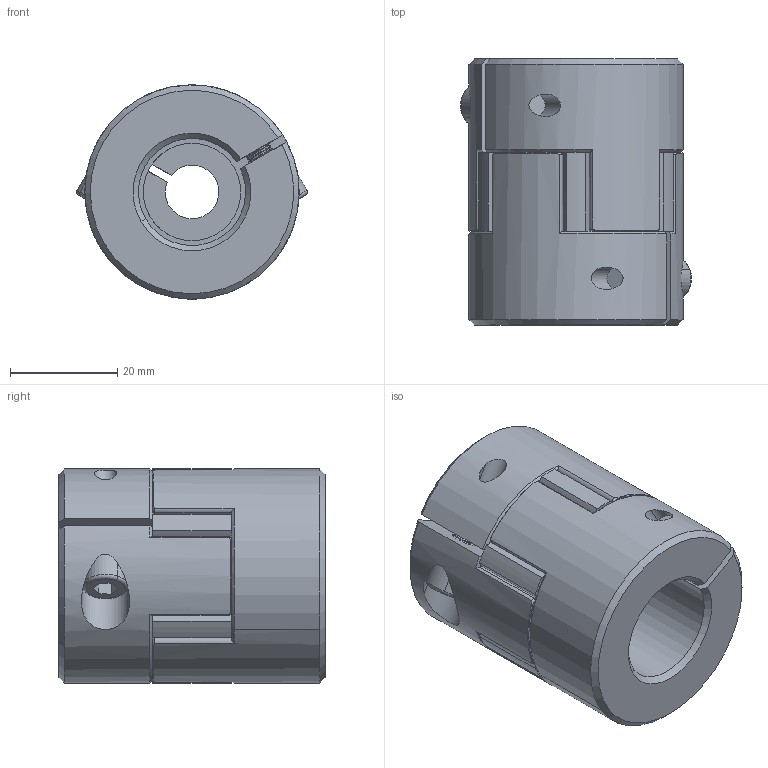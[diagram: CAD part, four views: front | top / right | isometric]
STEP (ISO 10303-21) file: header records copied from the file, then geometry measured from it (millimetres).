
FILE_DESCRIPTION (( 'STEP AP203' ), '1' );
FILE_NAME ('LF-B-D40L50-10-20.STEP', '2021-10-25T02:40:10', ( '' ), ( '' ), 'SwSTEP 2.0', 'SolidWorks 2018', '' );
FILE_SCHEMA (( 'CONFIG_CONTROL_DESIGN' ));
Length unit declared in the file: millimetre
Products named in the file (1): LF-B-D40L50-10-20
Bounding box: 43.11 x 49.7 x 40 mm (x, y, z)
Volume: 50083 mm3; surface area: 14661.8 mm2
Topology: 1 solids, 7 shells, 470 faces, 1113 edges, 660 vertices
Faces by surface type: cone 170, cylinder 169, plane 127, torus 4
Entity records: 13932 total; most frequent: CARTESIAN_POINT 2888, DIRECTION 2501, ORIENTED_EDGE 2218, EDGE_CURVE 1109, AXIS2_PLACEMENT_3D 1037, VERTEX_POINT 660, CIRCLE 566, EDGE_LOOP 487
